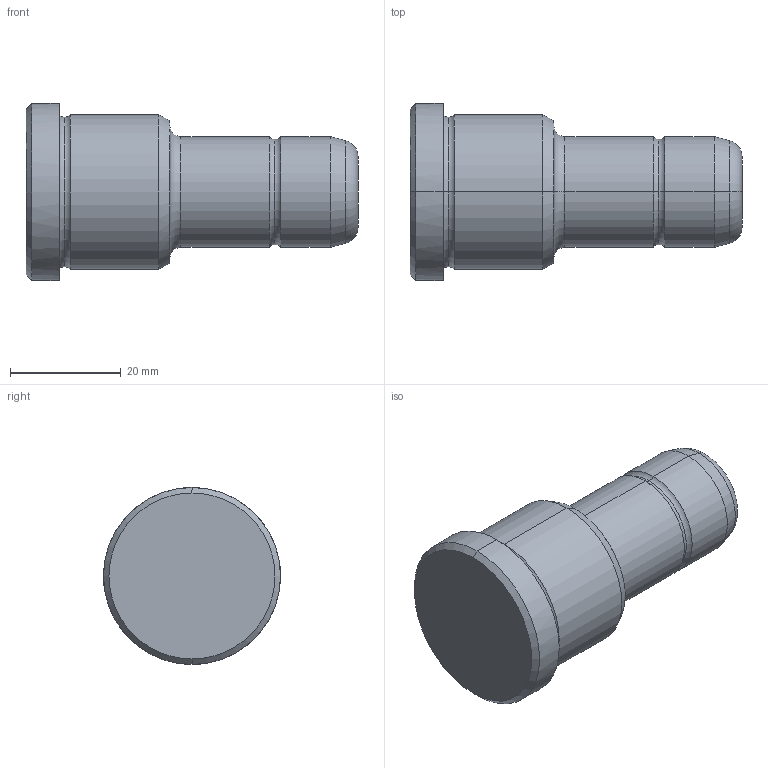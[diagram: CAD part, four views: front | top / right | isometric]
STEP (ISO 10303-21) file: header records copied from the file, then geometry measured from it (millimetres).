
FILE_DESCRIPTION(('CATIA V5 STEP Exchange'),'2;1');
FILE_NAME('C:\Users\Utente\Desktop\IO LAVORO\3D X SITO CF\X SITO\PLASTICA\351\351-20X26X60.stp','2021-08-27T12:42:23+00:00',('none'),('none'),'CATIA Version 5 Release 20 GA (IN-10)','CATIA V5 STEP AP203','none');
FILE_SCHEMA(('CONFIG_CONTROL_DESIGN'));
Length unit declared in the file: millimetre
Products named in the file (1): 351-20X26X60
Bounding box: 60 x 32 x 32 mm (x, y, z)
Volume: 27372.7 mm3; surface area: 5826.2 mm2
Topology: 1 solids, 1 shells, 30 faces, 86 edges, 60 vertices
Faces by surface type: torus 12, cylinder 8, cone 6, plane 4
Entity records: 1112 total; most frequent: CARTESIAN_POINT 289, ORIENTED_EDGE 172, DIRECTION 138, AXIS2_PLACEMENT_3D 95, EDGE_CURVE 86, CIRCLE 64, VERTEX_POINT 60, EDGE_LOOP 32
